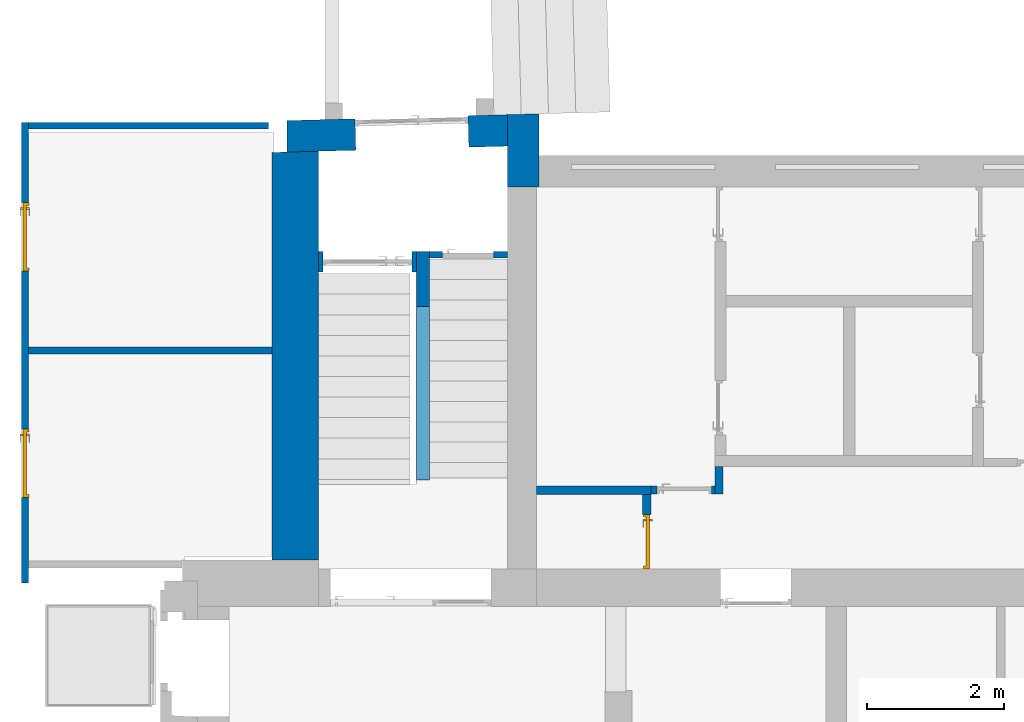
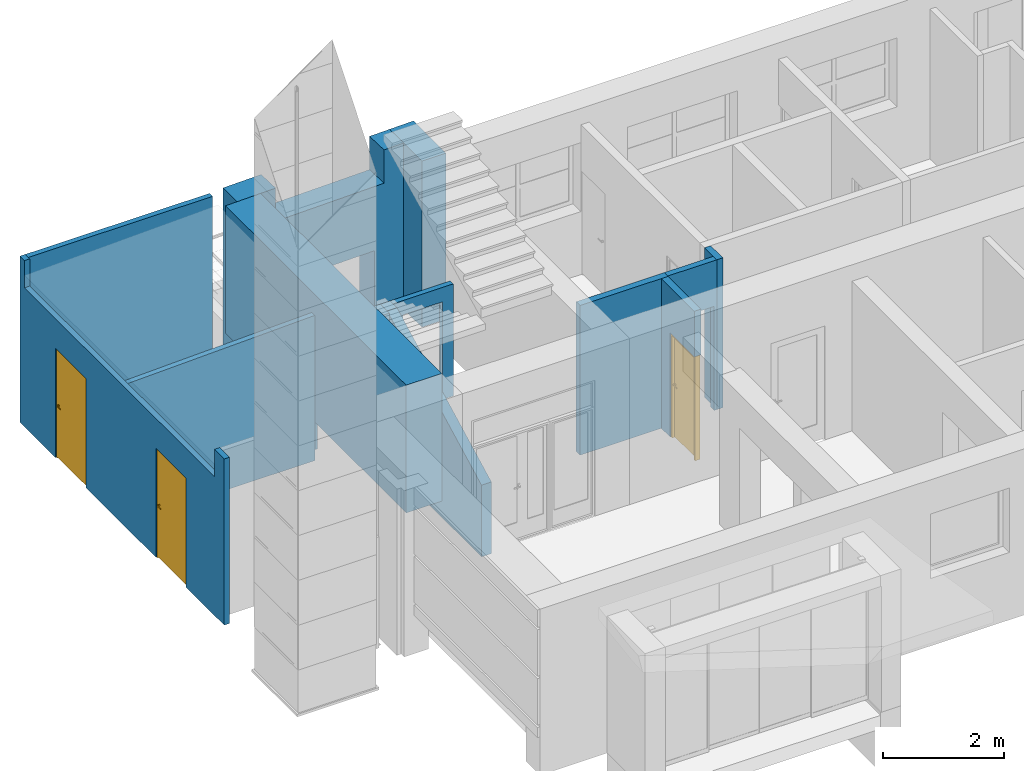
# One storey, part 18 of 49: 13 walls, 3 doors, 13 openings.
"""IFC2X3 building model written with IfcOpenShell, lengths in millimetres."""

from ifc_helpers import new_model, entity, si_unit, converted_unit, derived_unit, direction, frame, frame_2d, origin, place, context, subcontext, project, spatial, polyline, rectangle, outline, extrude, clip, bounded_halfspace, faceted_brep, source, transform, mapped, material, material_list, layer, layer_set, layer_usage, type_object, type_shapes, element, fill, save


model = new_model("IFC2X3")

# Units and contexts
model_context = context("Model", 3, precision=0.01, world=origin(), true_north=direction((6.12303176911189e-17, 1.0)))
body_context = subcontext(model_context, "Body", "Model", "MODEL_VIEW")
ifc_project = project(units=[si_unit("LENGTHUNIT", "METRE", prefix="MILLI"), si_unit("AREAUNIT", "SQUARE_METRE"), si_unit("VOLUMEUNIT", "CUBIC_METRE"), converted_unit("PLANEANGLEUNIT", "DEGREE", entity("IfcRatioMeasure", 0.0174532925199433), si_unit("PLANEANGLEUNIT", "RADIAN"), dimensions=[0, 0, 0, 0, 0, 0, 0]), si_unit("MASSUNIT", "GRAM", prefix="KILO"), derived_unit("MASSDENSITYUNIT", [(si_unit("MASSUNIT", "GRAM", prefix="KILO"), 1), (si_unit("LENGTHUNIT", "METRE"), -3)]), si_unit("TIMEUNIT", "SECOND"), si_unit("FREQUENCYUNIT", "HERTZ"), si_unit("THERMODYNAMICTEMPERATUREUNIT", "DEGREE_CELSIUS"), derived_unit("THERMALTRANSMITTANCEUNIT", [(si_unit("MASSUNIT", "GRAM", prefix="KILO"), 1), (si_unit("THERMODYNAMICTEMPERATUREUNIT", "KELVIN"), -1), (si_unit("TIMEUNIT", "SECOND"), -3)]), derived_unit("VOLUMETRICFLOWRATEUNIT", [(si_unit("LENGTHUNIT", "METRE"), 3), (si_unit("TIMEUNIT", "SECOND"), -1)]), si_unit("ELECTRICCURRENTUNIT", "AMPERE"), si_unit("ELECTRICVOLTAGEUNIT", "VOLT"), si_unit("POWERUNIT", "WATT"), si_unit("FORCEUNIT", "NEWTON", prefix="KILO"), si_unit("ILLUMINANCEUNIT", "LUX"), si_unit("LUMINOUSFLUXUNIT", "LUMEN"), si_unit("LUMINOUSINTENSITYUNIT", "CANDELA"), derived_unit("USERDEFINED", [(si_unit("MASSUNIT", "GRAM", prefix="KILO"), -1), (si_unit("LENGTHUNIT", "METRE"), -2), (si_unit("TIMEUNIT", "SECOND"), 3), (si_unit("LUMINOUSFLUXUNIT", "LUMEN"), 1)]), derived_unit("LINEARVELOCITYUNIT", [(si_unit("LENGTHUNIT", "METRE"), 1), (si_unit("TIMEUNIT", "SECOND"), -1)]), si_unit("PRESSUREUNIT", "PASCAL"), derived_unit("USERDEFINED", [(si_unit("LENGTHUNIT", "METRE"), -2), (si_unit("MASSUNIT", "GRAM", prefix="KILO"), 1), (si_unit("TIMEUNIT", "SECOND"), -2)])], contexts=[model_context])

# Site, building, storey
site_placement = place(None, frame((-151.875543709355, 2715.0, 0.0)))
site = spatial("IfcSite", under=ifc_project, at=site_placement, Name="Surface", CompositionType="ELEMENT")
building_placement = place(site_placement, origin())
building = spatial("IfcBuilding", under=site, at=building_placement, CompositionType="ELEMENT")
storey_placement = place(building_placement, origin())
storey = spatial("IfcBuildingStorey", under=building, at=storey_placement, Name="1 korrus", CompositionType="ELEMENT", Elevation=3.0969999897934e-10)

# Wall, opening
ifc_material_1 = material(Name="Tellis")
ifc_layer_1 = layer(ifc_material_1, 90.0)
ifc_material_2 = material(Name="__Hall krohv")
ifc_layer_2 = layer(ifc_material_2, 10.0)
ifc_layer_set_1 = layer_set([ifc_layer_1, ifc_layer_2], Name="Basic Wall:SS-01_ol.olev tellissein100")
ifc_layer_usage_1 = layer_usage(ifc_layer_set_1, "AXIS2", "NEGATIVE", 50.0)
wall_type_1 = type_object("IfcWallType", Name="Basic Wall:SS-01_ol.olev tellissein100", PredefinedType="STANDARD", material=ifc_layer_set_1)
wall_1_placement = place(storey_placement, frame((3393.79644394, 11158.382795, -754.164218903)))
wall_1 = element("IfcWallStandardCase", 1, at=wall_1_placement, inside=storey, type_object=wall_type_1, material=ifc_layer_usage_1, Name="SEIN - 003", ObjectType="Basic Wall:SS-01_ol.olev tellissein100", context=body_context, shape_type="SweptSolid", body=[
    extrude(rectangle(XDim=1146.27795490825, YDim=100.000000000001, at=frame_2d((573.138977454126, -1.08357767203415e-12), x_axis=(1.0, 0.0))), origin(), (0.0, 0.0, 1.0), 2259.58929114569),
])
opening_1_placement = place(wall_1_placement, frame((188.657590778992, -50.0, 0.0)))
element("IfcOpeningElement", 2, at=opening_1_placement, cuts=wall_1, Name="Ühepoolsed:SU-15:1", ObjectType="Opening", context=body_context, shape_type="SweptSolid", body=[
    extrude(rectangle(XDim=1969.99999999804, YDim=750.0, at=frame_2d((984.999999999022, 375.0), x_axis=(1.0, 0.0))), frame((0.0, 0.0, 0.0), z_axis=(0.0, 1.0, 0.0), x_axis=(0.0, 0.0, 1.0)), (0.0, 0.0, 1.0), 100.0),
])

# Wall, openings
ifc_material_3 = material(Name="Brick, Common")
ifc_layer_3 = layer(ifc_material_3, 440.0)
ifc_material_4 = material(Name="__Kips GN13_tava")
ifc_layer_4 = layer(ifc_material_4, 20.0)
ifc_layer_set_2 = layer_set([ifc_layer_3, ifc_layer_4], Name="Basic Wall:VS-1")
ifc_layer_usage_2 = layer_usage(ifc_layer_set_2, "AXIS2", "NEGATIVE", 230.0)
wall_type_2 = type_object("IfcWallType", Name="Basic Wall:VS-1", PredefinedType="STANDARD", material=ifc_layer_set_2)
wall_2_placement = place(storey_placement, frame((1084.82025900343, 12886.4674488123, 0.0), z_axis=(0.0, 0.0, 1.0), x_axis=(0.999638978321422, 0.0268684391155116, 0.0)))
wall_2 = element("IfcWallStandardCase", 3, at=wall_2_placement, inside=storey, type_object=wall_type_2, material=ifc_layer_usage_2, Name="SEIN - 004", ObjectType="Basic Wall:VS-1", context=body_context, shape_type="SweptSolid", body=[
    extrude(outline(polyline([(219.079092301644, -230.0), (3450.32003918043, -230.0), (3462.68398482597, 230.0), (231.44303794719, 230.0), (219.079092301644, -230.0)])), origin(), (0.0, 0.0, 1.0), 3350.0),
])
opening_2_placement = place(wall_2_placement, origin())
element("IfcOpeningElement", 4, at=opening_2_placement, cuts=wall_2, Name="SEIN - 004", ObjectType="Opening", context=body_context, shape_type="SweptSolid", body=[
    extrude(rectangle(XDim=1850.0, YDim=2100.0, at=frame_2d((2.27373675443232e-13, 0.0), x_axis=(1.0, 0.0))), frame((2022.05100957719, -490.0, 3604.53481674), z_axis=(0.0, 1.0, 0.0), x_axis=(0.0, 0.0, 1.0)), (0.0, 0.0, 1.0), 1180.0),
])
opening_3_placement = place(wall_2_placement, origin())
element("IfcOpeningElement", 5, at=opening_3_placement, cuts=wall_2, Name="SEIN - 004", ObjectType="Opening", context=body_context, shape_type="SweptSolid", body=[
    extrude(rectangle(XDim=1850.0, YDim=2100.0, at=frame_2d((2.8421709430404e-13, 1.13686837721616e-13), x_axis=(1.0, 0.0))), frame((2022.05100957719, -695.9, 3604.534816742), z_axis=(0.0, 1.0, 0.0), x_axis=(0.0, 0.0, -1.0)), (0.0, 0.0, 1.0), 1393.8),
])
opening_4_placement = place(wall_2_placement, frame((1226.25711883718, -230.0, -754.0)))
element("IfcOpeningElement", 6, at=opening_4_placement, cuts=wall_2, Name="Kahepoolsed:VU-02:1", ObjectType="Opening", context=body_context, shape_type="SweptSolid", body=[
    extrude(rectangle(XDim=2139.99999999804, YDim=1655.0, at=frame_2d((1069.99999999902, 827.5), x_axis=(1.0, 0.0))), frame((0.0, 0.0, 0.0), z_axis=(0.0, 1.0, 0.0), x_axis=(0.0, 0.0, 1.0)), (0.0, 0.0, 1.0), 460.0),
])

# Wall
ifc_layer_usage_3 = layer_usage(ifc_layer_set_2, "AXIS2", "NEGATIVE", 230.0)
wall_3_placement = place(storey_placement, frame((4770.07439884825, 13221.7852732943, 0.0), z_axis=(0.0, 0.0, 1.0), x_axis=(0.0, -1.0, 0.0)))
element("IfcWallStandardCase", 7, at=wall_3_placement, inside=storey, type_object=wall_type_2, material=ifc_layer_usage_3, Name="SEIN - 003", ObjectType="Basic Wall:VS-1", context=body_context, shape_type="SweptSolid", body=[
    extrude(outline(polyline([(1071.7852732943, -230.0), (1071.7852732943, 230.0), (611.785273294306, 230.0), (0.0, 230.0), (12.3639456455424, -230.0), (472.530075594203, -230.0), (1071.7852732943, -230.0)])), origin(), (0.0, 0.0, 1.0), 3350.0),
])

# Wall, opening
ifc_material_5 = material(Name="__Tuuletõkkeplaat")
ifc_layer_5 = layer(ifc_material_5, 9.0)
ifc_material_6 = material(Name="__Soojustus EPS")
ifc_layer_6 = layer(ifc_material_6, 200.0)
ifc_layer_7 = layer(ifc_material_3, 450.0)
ifc_layer_8 = layer(ifc_material_4, 20.0)
ifc_layer_set_3 = layer_set([ifc_layer_5, ifc_layer_6, ifc_layer_7, ifc_layer_8], Name="Basic Wall:VS-2_olemasolev sein fassaadikassettidega")
ifc_layer_usage_4 = layer_usage(ifc_layer_set_3, "AXIS2", "NEGATIVE", 339.5)
wall_type_3 = type_object("IfcWallType", Name="Basic Wall:VS-2_olemasolev sein fassaadikassettidega", PredefinedType="STANDARD", material=ifc_layer_set_3)
wall_4_placement = place(storey_placement, frame((1430.5, 6689.0, 774.90546009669), z_axis=(0.0, 0.0, 1.0), x_axis=(0.0, 1.0, 0.0)))
wall_4 = element("IfcWallStandardCase", 8, at=wall_4_placement, inside=storey, type_object=wall_type_3, material=ifc_layer_usage_4, Name="SEIN - 003", ObjectType="Basic Wall:VS-2_olemasolev sein fassaadikassettidega", context=body_context, shape_type="SweptSolid", body=[
    extrude(outline(polyline([(5985.80074269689, -339.5), (5973.43679705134, 120.5), (5967.55048379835, 339.5), (0.0, 339.5), (0.0, -339.5), (5985.80074269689, -339.5)])), origin(), (0.0, 0.0, 1.0), 2575.094539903),
])
opening_5_placement = place(wall_4_placement, origin())
element("IfcOpeningElement", 9, at=opening_5_placement, cuts=wall_4, Name="SEIN - 003", ObjectType="Opening", context=body_context, shape_type="SweptSolid", body=[
    extrude(rectangle(XDim=539.999999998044, YDim=550.0, at=frame_2d((5.40012479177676e-13, 2.8421709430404e-13), x_axis=(0.0, 1.0))), frame((-404.0, -2864.267567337, 1695.0945399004), z_axis=(0.0, 1.0, 0.0), x_axis=(1.0, 0.0, 0.0)), (0.0, 0.0, 1.0), 2350.0),
])

ifc_layer_9 = layer(ifc_material_2, 10.0)
ifc_layer_10 = layer(ifc_material_1, 170.0)
ifc_layer_11 = layer(ifc_material_2, 10.0)
ifc_layer_set_4 = layer_set([ifc_layer_9, ifc_layer_10, ifc_layer_11], Name="Basic Wall:SS-01_ol.olev tellissein190")
ifc_layer_usage_5 = layer_usage(ifc_layer_set_4, "AXIS2", "NEGATIVE", 95.0)
wall_type_4 = type_object("IfcWallType", Name="Basic Wall:SS-01_ol.olev tellissein190", PredefinedType="STANDARD", material=ifc_layer_set_4)
wall_5_placement = place(storey_placement, frame((3298.79644394, 11208.382795, -1561.28549576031), z_axis=(0.0, 0.0, 1.0), x_axis=(0.0, -1.0, 0.0)))
wall_5 = element("IfcWallStandardCase", 10, at=wall_5_placement, inside=storey, type_object=wall_type_4, material=ifc_layer_usage_5, Name="SEIN - 003", ObjectType="Basic Wall:SS-01_ol.olev tellissein190", context=body_context, shape_type="SweptSolid", body=[
    extrude(rectangle(XDim=3346.05140467, YDim=190.0, at=frame_2d((1673.025702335, 0.0), x_axis=(-1.0, 0.0))), origin(), (0.0, 0.0, 1.0), 3066.710568),
])
opening_6_placement = place(wall_5_placement, origin())
element("IfcOpeningElement", 11, at=opening_6_placement, cuts=wall_5, Name="SEIN - 003", ObjectType="Opening", context=body_context, shape_type="SweptSolid", body=[
    extrude(rectangle(XDim=4847.58259556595, YDim=9695.16519113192, at=frame_2d((-2.27373675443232e-13, -1.36424205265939e-12), x_axis=(1.0, 0.0))), frame((3738.59997822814, -4847.58259556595, 3972.17199045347), z_axis=(0.0, 1.0, 0.0), x_axis=(-0.461360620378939, 0.0, -0.887212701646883)), (0.0, 0.0, 1.0), 9695.1651911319),
])

ifc_layer_12 = layer(ifc_material_2, 10.0)
ifc_layer_13 = layer(ifc_material_1, 280.0)
ifc_layer_14 = layer(ifc_material_2, 10.0)
ifc_layer_set_5 = layer_set([ifc_layer_12, ifc_layer_13, ifc_layer_14], Name="Basic Wall:SS-01_ol.olev tellissein300")
ifc_layer_usage_6 = layer_usage(ifc_layer_set_5, "AXIS2", "NEGATIVE", 150.0)
wall_type_5 = type_object("IfcWallType", Name="Basic Wall:SS-01_ol.olev tellissein300", PredefinedType="STANDARD", material=ifc_layer_set_5)
wall_6_placement = place(storey_placement, frame((1770.0, 11058.382795, -754.164218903)))
wall_6 = element("IfcWallStandardCase", 12, at=wall_6_placement, inside=storey, type_object=wall_type_5, material=ifc_layer_usage_6, Name="SEIN - 003", ObjectType="Basic Wall:SS-01_ol.olev tellissein300", context=body_context, shape_type="SweptSolid", body=[
    extrude(rectangle(XDim=1433.79644394, YDim=300.000000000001, at=frame_2d((716.89822197, 0.0), x_axis=(-1.0, 0.0))), origin(), (0.0, 0.0, 1.0), 2259.58929114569),
])
opening_7_placement = place(wall_6_placement, frame((65.597899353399, -150.0, 1.30986315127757e-09)))
element("IfcOpeningElement", 13, at=opening_7_placement, cuts=wall_6, Name="Kahepoolsed:SU-12:1", ObjectType="Opening", context=body_context, shape_type="SweptSolid", body=[
    extrude(rectangle(XDim=2099.99999999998, YDim=1300.0, at=frame_2d((1049.99999999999, 650.0), x_axis=(1.0, 0.0))), frame((0.0, 0.0, 0.0), z_axis=(0.0, 1.0, 0.0), x_axis=(0.0, 0.0, 1.0)), (0.0, 0.0, 1.0), 300.0),
])

ifc_layer_15 = layer(ifc_material_4, 12.5)
ifc_layer_16 = layer(ifc_material_4, 12.5)
ifc_layer_17 = layer(ifc_material_6, 66.0)
ifc_layer_18 = layer(ifc_material_4, 12.5)
ifc_layer_19 = layer(ifc_material_4, 12.5)
ifc_layer_set_6 = layer_set([ifc_layer_15, ifc_layer_16, ifc_layer_17, ifc_layer_18, ifc_layer_19], Name="Basic Wall:SS-3_Kipssein tava ruumide vahel")
ifc_layer_usage_7 = layer_usage(ifc_layer_set_6, "AXIS2", "POSITIVE", -58.0)
wall_type_6 = type_object("IfcWallType", Name="Basic Wall:SS-3_Kipssein tava ruumide vahel", PredefinedType="STANDARD", material=ifc_layer_set_6)
wall_7_placement = place(storey_placement, frame((7631.72087425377, 7660.0, 0.0), z_axis=(0.0, 0.0, 1.0), x_axis=(0.0, 1.0, 0.0)))
wall_7 = element("IfcWallStandardCase", 14, at=wall_7_placement, inside=storey, type_object=wall_type_6, material=ifc_layer_usage_7, Name="Basic Wall:SS-3_Kipssein tava ruumide vahel", ObjectType="Basic Wall:SS-3_Kipssein tava ruumide vahel", context=body_context, shape_type="SweptSolid", body=[
    extrude(rectangle(XDim=401.306229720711, YDim=116.0, at=frame_2d((200.653114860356, 2.41584530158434e-13), x_axis=(-1.0, 0.0))), origin(), (0.0, 0.0, 1.0), 3020.0),
])
opening_8_placement = place(wall_7_placement, origin())
element("IfcOpeningElement", 15, at=opening_8_placement, cuts=wall_7, Name="Basic Wall:SS-3_Kipssein tava ruumide vahel", ObjectType="Opening", context=body_context, shape_type="SweptSolid", body=[
    extrude(rectangle(XDim=2099.99999999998, YDim=800.0, at=frame_2d((0.0, 0.0), x_axis=(0.0, 1.0))), frame((1261.30622972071, -1626.0, 1050.0), z_axis=(0.0, 1.0, 0.0), x_axis=(-1.0, 0.0, 0.0)), (0.0, 0.0, 1.0), 3048.0),
])

ifc_layer_usage_8 = layer_usage(ifc_layer_set_6, "AXIS2", "NEGATIVE", 58.0)
wall_8_placement = place(storey_placement, frame((6636.70853293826, 7718.0, 0.0)))
wall_8 = element("IfcWallStandardCase", 16, at=wall_8_placement, inside=storey, type_object=wall_type_6, material=ifc_layer_usage_8, Name="Basic Wall:SS-3_Kipssein tava ruumide vahel", ObjectType="Basic Wall:SS-3_Kipssein tava ruumide vahel", context=body_context, shape_type="SweptSolid", body=[
    extrude(rectangle(XDim=937.012341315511, YDim=116.0, at=frame_2d((468.506170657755, 8.5265128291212e-14), x_axis=(-1.0, 0.0))), origin(), (0.0, 0.0, 1.0), 3020.0),
])
opening_9_placement = place(wall_8_placement, frame((87.0123413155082, -58.0, 0.0)))
element("IfcOpeningElement", 17, at=opening_9_placement, cuts=wall_8, Name="Ühepoolsed:SU-05.:1", ObjectType="Opening", context=body_context, shape_type="SweptSolid", body=[
    extrude(rectangle(XDim=2099.99999999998, YDim=800.0, at=frame_2d((1049.99999999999, 400.0), x_axis=(1.0, 0.0))), frame((0.0, 0.0, 0.0), z_axis=(0.0, 1.0, 0.0), x_axis=(0.0, 0.0, 1.0)), (0.0, 0.0, 1.0), 116.0),
])

ifc_layer_20 = layer(ifc_material_4, 12.5)
ifc_layer_21 = layer(ifc_material_4, 12.5)
ifc_layer_22 = layer(ifc_material_6, 66.0)
ifc_material_7 = material(Name="__Kips GKB_niiskuskindel")
ifc_layer_23 = layer(ifc_material_7, 12.5)
ifc_layer_24 = layer(ifc_material_7, 12.5)
ifc_material_8 = material(Name="Keraamiline_plaat")
ifc_layer_25 = layer(ifc_material_8, 10.0)
ifc_layer_set_7 = layer_set([ifc_layer_20, ifc_layer_21, ifc_layer_22, ifc_layer_23, ifc_layer_24, ifc_layer_25], Name="Basic Wall:SS-4_Kipssein tava ja niiske ruumi vahel")
ifc_layer_usage_9 = layer_usage(ifc_layer_set_7, "AXIS2", "NEGATIVE", 63.0)
wall_type_7 = type_object("IfcWallType", Name="Basic Wall:SS-4_Kipssein tava ja niiske ruumi vahel", PredefinedType="STANDARD", material=ifc_layer_set_7)
wall_9_placement = place(storey_placement, frame((4960.07439884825, 7713.0, 0.0)))
wall_9 = element("IfcWallStandardCase", 18, at=wall_9_placement, inside=storey, type_object=wall_type_7, material=ifc_layer_usage_9, Name="Basic Wall:SS-4_Kipssein tava ja niiske ruumi vahel", ObjectType="Basic Wall:SS-4_Kipssein tava ja niiske ruumi vahel", context=body_context, shape_type="SweptSolid", body=[
    extrude(rectangle(XDim=1676.63413409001, YDim=126.0, at=frame_2d((838.317067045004, -1.91846538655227e-13), x_axis=(-1.0, 0.0))), origin(), (0.0, 0.0, 1.0), 3020.0),
])
opening_10_placement = place(wall_9_placement, origin())
element("IfcOpeningElement", 19, at=opening_10_placement, cuts=wall_9, Name="Basic Wall:SS-4_Kipssein tava ja niiske ruumi vahel", ObjectType="Opening", context=body_context, shape_type="SweptSolid", body=[
    extrude(rectangle(XDim=2099.99999999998, YDim=800.0, at=frame_2d((0.0, 0.0), x_axis=(0.0, 1.0))), frame((2163.64647540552, -1577.0, 1050.0), z_axis=(0.0, 1.0, 0.0), x_axis=(-1.0, 0.0, 0.0)), (0.0, 0.0, 1.0), 3048.0),
])

# Wall, opening, door
ifc_layer_usage_10 = layer_usage(ifc_layer_set_7, "AXIS2", "POSITIVE", -63.0)
wall_10_placement = place(storey_placement, frame((6573.70853293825, 6560.0, 0.0), z_axis=(0.0, 0.0, 1.0), x_axis=(0.0, 1.0, 0.0)))
wall_10 = element("IfcWallStandardCase", 20, at=wall_10_placement, inside=storey, type_object=wall_type_7, material=ifc_layer_usage_10, Name="Basic Wall:SS-4_Kipssein tava ja niiske ruumi vahel", ObjectType="Basic Wall:SS-4_Kipssein tava ja niiske ruumi vahel", context=body_context, shape_type="SweptSolid", body=[
    extrude(rectangle(XDim=1089.99999999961, YDim=126.0, at=frame_2d((544.999999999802, -1.95399252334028e-13), x_axis=(-1.0, 0.0))), origin(), (0.0, 0.0, 1.0), 3020.0),
])
opening_11_placement = place(wall_10_placement, frame((800.0, 63.0, 0.0)))
opening_11 = element("IfcOpeningElement", 21, at=opening_11_placement, cuts=wall_10, Name="Ühepoolsed:SU-05.:1", ObjectType="Opening", context=body_context, shape_type="SweptSolid", body=[
    extrude(rectangle(XDim=2099.99999999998, YDim=800.0, at=frame_2d((1049.99999999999, 400.0), x_axis=(1.0, 0.0))), frame((0.0, 0.0, 0.0), z_axis=(0.0, -1.0, 0.0), x_axis=(0.0, 0.0, 1.0)), (0.0, 0.0, 1.0), 126.0),
])
ifc_material_9 = material(Name="_Alumiiniumprofiil - must")
ifc_material_10 = material(Name="__Uks_hele tamm")
ifc_material_list_1 = material_list([ifc_material_9, ifc_material_10])
ifc_material_list_2 = material_list([ifc_material_9, ifc_material_10])
door_style_1 = type_object("IfcDoorStyle", Name="SU-05.", ConstructionType="NOTDEFINED", OperationType="FOLDING_TO_LEFT", ParameterTakesPrecedence=False, Sizeable=False, material=ifc_material_list_2)
shared_shape_1 = source(origin(), body_context, "Body", "Brep", [
    faceted_brep([(100.0, 16.0, 1112.5), (100.0, 54.0, 1112.5), (75.0, 54.0, 1112.5), (75.0, 11.0, 1112.5), (195.0, 11.0, 1112.5), (195.0, 16.0, 1112.5), (100.0, 16.0, 1087.5), (195.0, 16.0, 1087.5), (195.0, 11.0, 1087.5), (75.0, 11.0, 1087.5), (75.0, 54.0, 1087.5), (100.0, 54.0, 1087.5)], [[[0, 1, 2, 3, 4, 5]], [[6, 7, 8, 9, 10, 11]], [[1, 0, 6, 11]], [[2, 1, 11, 10]], [[3, 2, 10, 9]], [[4, 3, 9, 8]], [[5, 4, 8, 7]], [[0, 5, 7, 6]]]),
    faceted_brep([(112.5, 54.0, 1137.5), (112.5, 56.0, 1137.5), (62.5000000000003, 56.0, 1137.5), (62.5000000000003, 54.0, 1137.5), (112.5, 54.0, 1017.5), (62.5000000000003, 54.0, 1017.5), (62.5000000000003, 56.0, 1017.5), (112.5, 56.0, 1017.5)], [[[0, 1, 2, 3]], [[4, 5, 6, 7]], [[1, 0, 4, 7]], [[2, 1, 7, 6]], [[3, 2, 6, 5]], [[0, 3, 5, 4]]]),
    faceted_brep([(100.0, 146.0, 1112.5), (195.0, 146.0, 1112.5), (195.0, 151.0, 1112.5), (75.0, 151.0, 1112.5), (75.0, 108.0, 1112.5), (100.0, 108.0, 1112.5), (100.0, 146.0, 1087.5), (100.0, 108.0, 1087.5), (75.0, 108.0, 1087.5), (75.0, 151.0, 1087.5), (195.0, 151.0, 1087.5), (195.0, 146.0, 1087.5)], [[[0, 1, 2, 3, 4, 5]], [[6, 7, 8, 9, 10, 11]], [[5, 7, 6, 0]], [[4, 8, 7, 5]], [[3, 9, 8, 4]], [[2, 10, 9, 3]], [[1, 11, 10, 2]], [[0, 6, 11, 1]]]),
    faceted_brep([(112.5, 108.0, 1137.5), (62.5000000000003, 108.0, 1137.5), (62.5000000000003, 106.0, 1137.5), (112.5, 106.0, 1137.5), (112.5, 108.0, 1017.5), (112.5, 106.0, 1017.5), (62.5000000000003, 106.0, 1017.5), (62.5000000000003, 108.0, 1017.5)], [[[0, 1, 2, 3]], [[4, 5, 6, 7]], [[3, 5, 4, 0]], [[2, 6, 5, 3]], [[1, 7, 6, 2]], [[0, 4, 7, 1]]]),
    faceted_brep([(800.0, 16.0, 0.0), (760.0, 16.0, 0.0), (760.0, 56.0, 0.0), (775.0, 56.0, 0.0), (775.0, 106.0, 0.0), (800.0, 106.0, 0.0), (800.0, 16.0, 2100.0), (0.0, 16.0, 2100.0), (0.0, 16.0, 0.0), (40.0, 16.0, 0.0), (40.0, 16.0, 2060.0), (760.0, 16.0, 2060.0), (760.0, 56.0, 2060.0), (40.0, 56.0, 2060.0), (40.0, 56.0, 0.0), (25.0, 56.0, 0.0), (25.0, 56.0, 2075.0), (775.0, 56.0, 2075.0), (775.0, 106.0, 2075.0), (25.0, 106.0, 2075.0), (25.0, 106.0, 0.0), (0.0, 106.0, 0.0), (0.0, 106.0, 2100.0), (800.0, 106.0, 2100.0)], [[[0, 1, 2, 3, 4, 5]], [[1, 0, 6, 7, 8, 9, 10, 11]], [[2, 1, 11, 12]], [[3, 2, 12, 13, 14, 15, 16, 17]], [[4, 3, 17, 18]], [[5, 4, 18, 19, 20, 21, 22, 23]], [[0, 5, 23, 6]], [[8, 7, 22, 21]], [[9, 8, 21, 20, 15, 14]], [[10, 9, 14, 13]], [[16, 15, 20, 19]], [[11, 10, 13, 12]], [[17, 16, 19, 18]], [[7, 6, 23, 22]]]),
    faceted_brep([(25.0, 56.0, 2075.0), (25.0, 56.0, 20.0), (775.0, 56.0, 20.0), (775.0, 56.0, 2075.0), (25.0, 106.0, 2075.0), (775.0, 106.0, 2075.0), (775.0, 106.0, 20.0), (25.0, 106.0, 20.0)], [[[0, 1, 2, 3]], [[4, 5, 6, 7]], [[1, 0, 4, 7]], [[2, 1, 7, 6]], [[3, 2, 6, 5]], [[0, 3, 5, 4]]]),
])
type_shapes(door_style_1, [shared_shape_1])
door_1_placement = place(opening_11_placement, frame((0.0, 0.0, 0.0), z_axis=(0.0, 0.0, 1.0), x_axis=(-1.0, 0.0, 0.0)))
door_1 = element("IfcDoor", 22, at=door_1_placement, inside=storey, type_object=door_style_1, material=ifc_material_list_1, Name="Ühepoolsed:SU-05.", ObjectType="SU-05.", OverallHeight=2099.99999999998, OverallWidth=800.0, context=body_context, shape_type="MappedRepresentation", body=[
    mapped(shared_shape_1, transform((0.0, 0.0, 0.0), scale=1.0)),
])
fill(opening_11, door_1)

# Wall, openings, doors
ifc_material_11 = material(Name="External face timepruun h=1100mm")
ifc_layer_26 = layer(ifc_material_11, 1.0)
ifc_material_12 = material(Name="Core Mineral wool Mineral Wool h=1100mm")
ifc_layer_27 = layer(ifc_material_12, 98.0)
ifc_material_13 = material(Name="Internal face RAL 7035 h=1100mm")
ifc_layer_28 = layer(ifc_material_13, 1.0)
ifc_layer_set_8 = layer_set([ifc_layer_26, ifc_layer_27, ifc_layer_28], Name="Basic Wall:VS-3.1_SW kergpaneel 100mm")
ifc_layer_usage_11 = layer_usage(ifc_layer_set_8, "AXIS2", "NEGATIVE", 50.00000000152)
wall_type_8 = type_object("IfcWallType", Name="Basic Wall:VS-3.1_SW kergpaneel 100mm", PredefinedType="STANDARD", material=ifc_layer_set_8)
wall_11_placement = place(storey_placement, frame((-2525.12445445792, 6351.05917364, 0.0), z_axis=(0.0, 0.0, 1.0), x_axis=(0.0, 1.0, 0.0)))
wall_11 = element("IfcWallStandardCase", 23, at=wall_11_placement, inside=storey, type_object=wall_type_8, material=ifc_layer_usage_11, Name="Basic Wall:VS-3.1_SW kergpaneel 100mm", ObjectType="Basic Wall:VS-3.1_SW kergpaneel 100mm", context=body_context, shape_type="Clipping", body=[
    clip(extrude(rectangle(XDim=6746.54375332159, YDim=100.00000000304, at=frame_2d((3373.2718766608, -7.8159700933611e-14), x_axis=(-1.0, 0.0))), origin(), (0.0, 0.0, 1.0), 3350.0), bounded_halfspace(frame((325.0, 50.0, 2800.0), z_axis=(0.0, 0.0348994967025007, 0.999390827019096), x_axis=(-1.0, 0.0, 0.0)), False, frame((325.0, 50.0, 2800.0)), polyline([(0.0, 0.0), (0.0, -100.0), (3030.27245482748, -100.0), (3130.27245483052, -100.0), (6272.54259697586, -100.0), (6272.54259697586, 0.0), (0.0, 0.0)]))),
])
opening_12_placement = place(wall_11_placement, frame((1255.27245482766, -50.0, 0.0)))
opening_12 = element("IfcOpeningElement", 24, at=opening_12_placement, cuts=wall_11, Name="Ühepoolsed:VU-04:1", ObjectType="Opening", context=body_context, shape_type="SweptSolid", body=[
    extrude(rectangle(XDim=2199.99999999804, YDim=1000.0, at=frame_2d((1099.99999999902, 500.0), x_axis=(1.0, 0.0))), frame((0.0, 0.0, 0.0), z_axis=(0.0, 1.0, 0.0), x_axis=(0.0, 0.0, 1.0)), (0.0, 0.0, 1.0), 100.00000000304),
])
opening_13_placement = place(wall_11_placement, frame((4571.54375373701, -50.0, 0.0)))
opening_13 = element("IfcOpeningElement", 25, at=opening_13_placement, cuts=wall_11, Name="Ühepoolsed:VU-04:1", ObjectType="Opening", context=body_context, shape_type="SweptSolid", body=[
    extrude(rectangle(XDim=2199.99999999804, YDim=1000.0, at=frame_2d((1099.99999999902, 500.0), x_axis=(1.0, 0.0))), frame((0.0, 0.0, 0.0), z_axis=(0.0, 1.0, 0.0), x_axis=(0.0, 0.0, 1.0)), (0.0, 0.0, 1.0), 100.00000000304),
])
ifc_material_14 = material(Name="Steel/Aluminium")
ifc_material_list_3 = material_list([ifc_material_9, ifc_material_14])
ifc_material_list_4 = material_list([ifc_material_9, ifc_material_14])
door_style_2 = type_object("IfcDoorStyle", Name="VU-04", ConstructionType="NOTDEFINED", OperationType="FOLDING_TO_LEFT", ParameterTakesPrecedence=False, Sizeable=False, material=ifc_material_list_4)
shared_shape_2 = source(origin(), body_context, "Body", "Brep", [
    faceted_brep([(900.0, -10.0, 1112.5), (805.0, -10.0, 1112.5), (805.0, -15.0, 1112.5), (925.0, -15.0, 1112.5), (925.0, 28.0, 1112.5), (900.0, 28.0, 1112.5), (900.0, -10.0, 1087.5), (900.0, 28.0, 1087.5), (925.0, 28.0, 1087.5), (925.0, -15.0, 1087.5), (805.0, -15.0, 1087.5), (805.0, -10.0, 1087.5)], [[[0, 1, 2, 3, 4, 5]], [[6, 7, 8, 9, 10, 11]], [[5, 7, 6, 0]], [[4, 8, 7, 5]], [[3, 9, 8, 4]], [[2, 10, 9, 3]], [[1, 11, 10, 2]], [[0, 6, 11, 1]]]),
    faceted_brep([(887.500000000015, 28.0, 1137.5), (937.500000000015, 28.0, 1137.5), (937.500000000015, 30.0, 1137.5), (887.500000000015, 30.0, 1137.5), (887.500000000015, 28.0, 1017.5), (887.500000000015, 30.0, 1017.5), (937.500000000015, 30.0, 1017.5), (937.500000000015, 28.0, 1017.5)], [[[0, 1, 2, 3]], [[4, 5, 6, 7]], [[3, 5, 4, 0]], [[2, 6, 5, 3]], [[1, 7, 6, 2]], [[0, 4, 7, 1]]]),
    faceted_brep([(900.0, 120.0, 1112.5), (900.0, 82.0, 1112.5), (925.0, 82.0, 1112.5), (925.0, 125.0, 1112.5), (805.0, 125.0, 1112.5), (805.0, 120.0, 1112.5), (900.0, 120.0, 1087.5), (805.0, 120.0, 1087.5), (805.0, 125.0, 1087.5), (925.0, 125.0, 1087.5), (925.0, 82.0, 1087.5), (900.0, 82.0, 1087.5)], [[[0, 1, 2, 3, 4, 5]], [[6, 7, 8, 9, 10, 11]], [[1, 0, 6, 11]], [[2, 1, 11, 10]], [[3, 2, 10, 9]], [[4, 3, 9, 8]], [[5, 4, 8, 7]], [[0, 5, 7, 6]]]),
    faceted_brep([(887.500000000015, 82.0, 1137.5), (887.500000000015, 80.0, 1137.5), (937.500000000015, 80.0, 1137.5), (937.500000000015, 82.0, 1137.5), (887.500000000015, 82.0, 1017.5), (937.500000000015, 82.0, 1017.5), (937.500000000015, 80.0, 1017.5), (887.500000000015, 80.0, 1017.5)], [[[0, 1, 2, 3]], [[4, 5, 6, 7]], [[1, 0, 4, 7]], [[2, 1, 7, 6]], [[3, 2, 6, 5]], [[0, 3, 5, 4]]]),
    faceted_brep([(0.0, -10.0, 0.0), (0.0, 80.0, 0.0), (25.0, 80.0, 0.0), (25.0, 30.0, 0.0), (40.0, 30.0, 0.0), (40.0, -10.0, 0.0), (40.0, -10.0, 2160.0), (960.0, -10.0, 2160.0), (960.0, -10.0, 0.0), (1000.0, -10.0, 0.0), (1000.0, -10.0, 2200.0), (0.0, -10.0, 2200.0), (40.0, 30.0, 2160.0), (25.0, 30.0, 2175.0), (975.0, 30.0, 2175.0), (975.0, 30.0, 0.0), (960.0, 30.0, 0.0), (960.0, 30.0, 2160.0), (25.0, 80.0, 2175.0), (0.0, 80.0, 2200.0), (1000.0, 80.0, 2200.0), (1000.0, 80.0, 0.0), (975.0, 80.0, 0.0), (975.0, 80.0, 2175.0)], [[[0, 1, 2, 3, 4, 5]], [[5, 6, 7, 8, 9, 10, 11, 0]], [[4, 12, 6, 5]], [[3, 13, 14, 15, 16, 17, 12, 4]], [[2, 18, 13, 3]], [[1, 19, 20, 21, 22, 23, 18, 2]], [[0, 11, 19, 1]], [[9, 21, 20, 10]], [[8, 16, 15, 22, 21, 9]], [[7, 17, 16, 8]], [[14, 23, 22, 15]], [[6, 12, 17, 7]], [[13, 18, 23, 14]], [[10, 20, 19, 11]]]),
    faceted_brep([(975.0, 30.0, 2175.0), (25.0, 30.0, 2175.0), (25.0, 30.0, 20.0), (975.0, 30.0, 20.0), (975.0, 80.0, 2175.0), (975.0, 80.0, 20.0), (25.0, 80.0, 20.0), (25.0, 80.0, 2175.0)], [[[0, 1, 2, 3]], [[4, 5, 6, 7]], [[3, 5, 4, 0]], [[2, 6, 5, 3]], [[1, 7, 6, 2]], [[0, 4, 7, 1]]]),
])
type_shapes(door_style_2, [shared_shape_2])
door_2_placement = place(opening_12_placement, frame((0.0, -1.52249413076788e-09, 0.0)))
door_2 = element("IfcDoor", 26, at=door_2_placement, inside=storey, type_object=door_style_2, material=ifc_material_list_3, Name="Ühepoolsed:VU-04", ObjectType="VU-04", OverallHeight=2199.99999999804, OverallWidth=1000.0, context=body_context, shape_type="MappedRepresentation", body=[
    mapped(shared_shape_2, transform((0.0, 0.0, 0.0), scale=1.0)),
])
fill(opening_12, door_2)
ifc_material_list_5 = material_list([ifc_material_9, ifc_material_14])
door_3_placement = place(opening_13_placement, frame((0.0, -1.52749635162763e-09, 0.0)))
door_3 = element("IfcDoor", 27, at=door_3_placement, inside=storey, type_object=door_style_2, material=ifc_material_list_5, Name="Ühepoolsed:VU-04", ObjectType="VU-04", OverallHeight=2199.99999999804, OverallWidth=1000.0, context=body_context, shape_type="MappedRepresentation", body=[
    mapped(shared_shape_2, transform((0.0, 0.0, 0.0), scale=1.0)),
])
fill(opening_13, door_3)

# Walls
ifc_layer_usage_12 = layer_usage(ifc_layer_set_8, "AXIS2", "NEGATIVE", 50.00000000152)
wall_12_placement = place(storey_placement, frame((-2475.12445445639, 13047.6029269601, 0.0)))
element("IfcWallStandardCase", 28, at=wall_12_placement, inside=storey, type_object=wall_type_8, material=ifc_layer_usage_12, Name="Basic Wall:VS-3.1_SW kergpaneel 100mm", ObjectType="Basic Wall:VS-3.1_SW kergpaneel 100mm", context=body_context, shape_type="SweptSolid", body=[
    extrude(rectangle(XDim=3515.00000000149, YDim=100.00000000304, at=frame_2d((1757.50000000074, -6.75015598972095e-14), x_axis=(-1.0, 0.0))), origin(), (0.0, 0.0, 1.0), 3350.0),
])
ifc_layer_29 = layer(ifc_material_11, 1.0)
ifc_layer_30 = layer(ifc_material_12, 98.0)
ifc_layer_31 = layer(ifc_material_13, 1.0)
ifc_layer_set_9 = layer_set([ifc_layer_29, ifc_layer_30, ifc_layer_31], Name="Basic Wall:SW kergpaneel 100mm")
ifc_layer_usage_13 = layer_usage(ifc_layer_set_9, "AXIS2", "NEGATIVE", 50.00000000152)
wall_type_9 = type_object("IfcWallType", Name="Basic Wall:SW kergpaneel 100mm", PredefinedType="STANDARD", material=ifc_layer_set_9)
wall_13_placement = place(storey_placement, frame((-2475.12445445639, 9756.33162846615, 0.0)))
element("IfcWallStandardCase", 29, at=wall_13_placement, inside=storey, type_object=wall_type_9, material=ifc_layer_usage_13, Name="Basic Wall:SW kergpaneel 100mm", ObjectType="Basic Wall:SW kergpaneel 100mm", context=body_context, shape_type="Clipping", body=[
    clip(extrude(rectangle(XDim=3564.00000000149, YDim=100.00000000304, at=frame_2d((1782.00000000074, 1.63424829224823e-13), x_axis=(-1.0, 0.0))), origin(), (0.0, 0.0, 1.0), 2927.94969941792), bounded_halfspace(frame((0.0, -50.0, 2803.49207694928), z_axis=(-0.0348994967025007, 0.0, 0.999390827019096), x_axis=(0.0, -1.0, 0.0)), False, frame((0.0, -50.0, 2803.49207694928)), polyline([(0.0, 0.0), (3564.0, 0.0), (3564.0, 100.0), (0.0, 100.0), (0.0, 0.0)]))),
])

save(model, "model.ifc")
